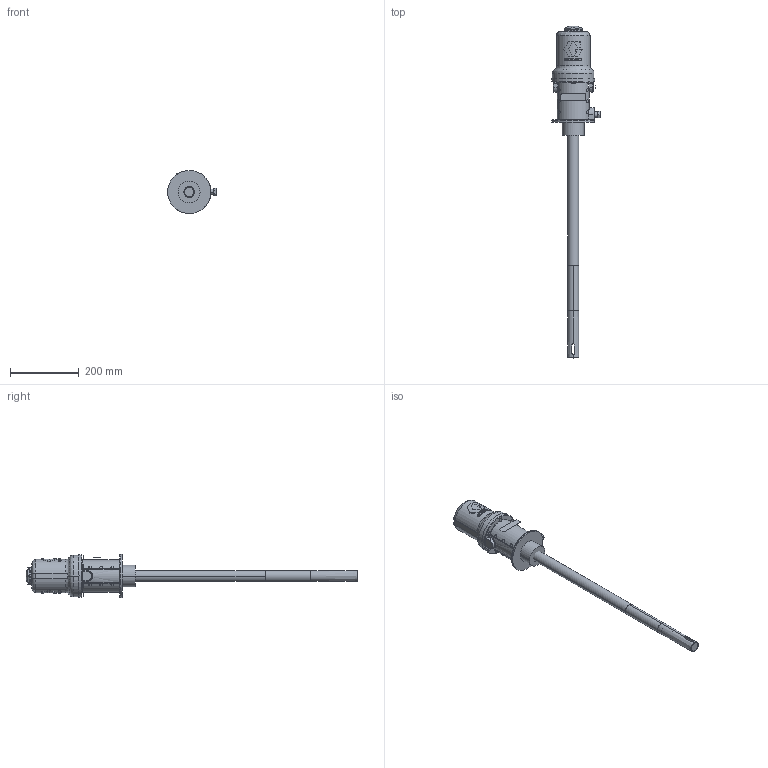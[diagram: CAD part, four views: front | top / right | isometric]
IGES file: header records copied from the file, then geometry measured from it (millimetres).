
Start section:  PTC IGES file: 246780-en-z.igs
Global section: file name: 246780-en-z.igs; native system: Creo Parametric by PTC Inc.; preprocessor: 2021072; author: qtmwp1; organization: Unknown; date: 20240221.093811; units: inch
Bounding box: 140.74 x 963.51 x 124.81 mm (x, y, z)
Surface area: 250970.3 mm2 (no closed solid volume)
Topology: 0 solids, 0 shells, 266 faces, 1315 edges, 1315 vertices
Faces by surface type: revolution 149, bspline 117
